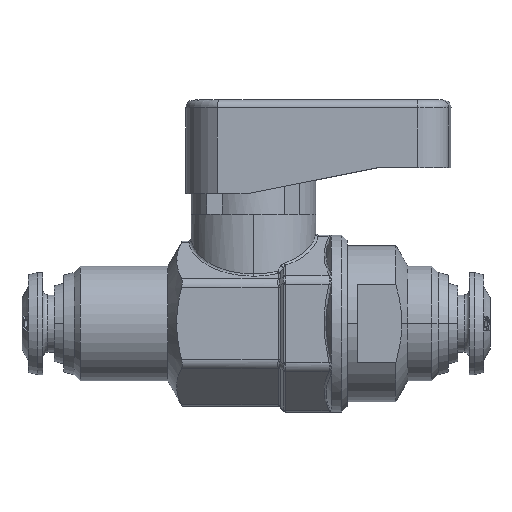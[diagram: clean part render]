
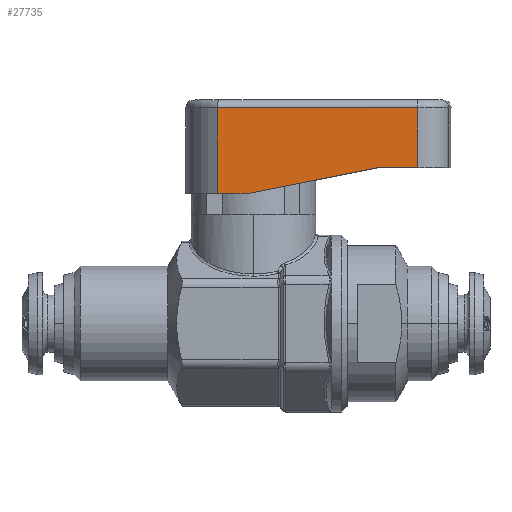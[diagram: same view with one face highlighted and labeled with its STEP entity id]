
A CAD part, top view. The second image highlights one B-rep face of the part: STEP entity #27735.
In plain terms, the highlighted planar face has unit normal (0, 0, 1).
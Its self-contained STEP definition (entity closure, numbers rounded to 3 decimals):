
#1621 = EDGE_CURVE ( 'NONE', #5657, #5649, #2896, .T. ) ;
#1622 = EDGE_CURVE ( 'NONE', #5671, #5649, #2907, .T. ) ;
#1623 = EDGE_CURVE ( 'NONE', #5671, #5663, #2905, .T. ) ;
#1624 = EDGE_CURVE ( 'NONE', #5663, #5664, #2894, .T. ) ;
#1625 = EDGE_CURVE ( 'NONE', #5664, #5658, #2900, .T. ) ;
#2894 = LINE ( 'NONE', #7235, #2915 ) ;
#2896 = LINE ( 'NONE', #7228, #2909 ) ;
#2898 = VECTOR ( 'NONE', #7234, 1000. ) ;
#2900 = LINE ( 'NONE', #7237, #2920 ) ;
#2905 = LINE ( 'NONE', #7227, #2898 ) ;
#2907 = LINE ( 'NONE', #7226, #2913 ) ;
#2909 = VECTOR ( 'NONE', #7225, 1000. ) ;
#2913 = VECTOR ( 'NONE', #7233, 1000. ) ;
#2915 = VECTOR ( 'NONE', #7236, 1000. ) ;
#2920 = VECTOR ( 'NONE', #7238, 1000. ) ;
#3240 = CARTESIAN_POINT ( 'NONE',  ( 1.716, 12.5, 5.5 ) ) ;
#3245 = PLANE ( 'NONE',  #29530 ) ;
#3249 = DIRECTION ( 'NONE',  ( 0., 0., 1. ) ) ;
#3250 = DIRECTION ( 'NONE',  ( 1., 0., 0. ) ) ;
#5649 = VERTEX_POINT ( 'NONE', #29737 ) ;
#5657 = VERTEX_POINT ( 'NONE', #29745 ) ;
#5658 = VERTEX_POINT ( 'NONE', #29746 ) ;
#5663 = VERTEX_POINT ( 'NONE', #29751 ) ;
#5664 = VERTEX_POINT ( 'NONE', #29752 ) ;
#5671 = VERTEX_POINT ( 'NONE', #29759 ) ;
#7225 = DIRECTION ( 'NONE',  ( -1., 0., 0. ) ) ;
#7226 = CARTESIAN_POINT ( 'NONE',  ( 1.716, 12.5, 5.5 ) ) ;
#7227 = CARTESIAN_POINT ( 'NONE',  ( 1.716, 12.5, 5.5 ) ) ;
#7228 = CARTESIAN_POINT ( 'NONE',  ( 1.716, 20.75, 5.5 ) ) ;
#7233 = DIRECTION ( 'NONE',  ( 0., 1., 0. ) ) ;
#7234 = DIRECTION ( 'NONE',  ( 1., 0., 0. ) ) ;
#7235 = CARTESIAN_POINT ( 'NONE',  ( 17.18, 15., 5.5 ) ) ;
#7236 = DIRECTION ( 'NONE',  ( 0.981, 0.196, 0. ) ) ;
#7237 = CARTESIAN_POINT ( 'NONE',  ( 24.18, 15., 5.5 ) ) ;
#7238 = DIRECTION ( 'NONE',  ( 1., 0., 0. ) ) ;
#7522 = EDGE_CURVE ( 'NONE', #5658, #5657, #33155, .T. ) ;
#16859 = ORIENTED_EDGE ( 'NONE', *, *, #7522, .T. ) ;
#16861 = ORIENTED_EDGE ( 'NONE', *, *, #1621, .T. ) ;
#16862 = ORIENTED_EDGE ( 'NONE', *, *, #1622, .F. ) ;
#16865 = ORIENTED_EDGE ( 'NONE', *, *, #1623, .T. ) ;
#16867 = ORIENTED_EDGE ( 'NONE', *, *, #1624, .T. ) ;
#16869 = ORIENTED_EDGE ( 'NONE', *, *, #1625, .T. ) ;
#20854 = FACE_OUTER_BOUND ( 'NONE', #31850, .T. ) ;
#27735 = ADVANCED_FACE ( 'NONE', ( #20854 ), #3245, .T. ) ;
#29530 = AXIS2_PLACEMENT_3D ( 'NONE', #3240, #3249, #3250 ) ;
#29737 = CARTESIAN_POINT ( 'NONE',  ( 1.716, 20.75, 5.5 ) ) ;
#29745 = CARTESIAN_POINT ( 'NONE',  ( 20.984, 20.75, 5.5 ) ) ;
#29746 = CARTESIAN_POINT ( 'NONE',  ( 20.984, 15., 5.5 ) ) ;
#29751 = CARTESIAN_POINT ( 'NONE',  ( 4.68, 12.5, 5.5 ) ) ;
#29752 = CARTESIAN_POINT ( 'NONE',  ( 17.18, 15., 5.5 ) ) ;
#29759 = CARTESIAN_POINT ( 'NONE',  ( 1.716, 12.5, 5.5 ) ) ;
#31850 = EDGE_LOOP ( 'NONE', ( #16859, #16861, #16862, #16865, #16867, #16869 ) ) ;
#33010 = CARTESIAN_POINT ( 'NONE',  ( 20.984, 12.5, 5.5 ) ) ;
#33011 = DIRECTION ( 'NONE',  ( 0., 1., 0. ) ) ;
#33155 = LINE ( 'NONE', #33010, #33157 ) ;
#33157 = VECTOR ( 'NONE', #33011, 1000. ) ;
